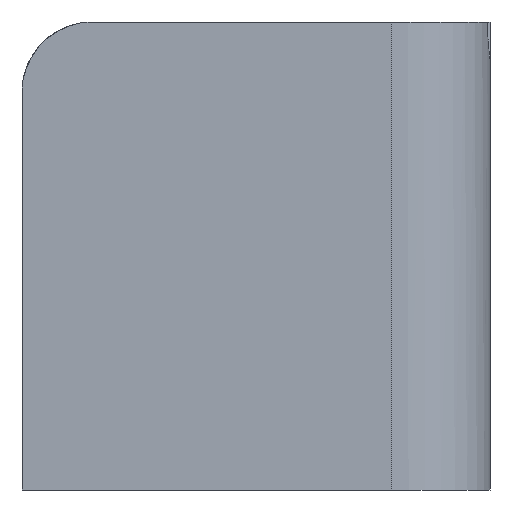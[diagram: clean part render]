
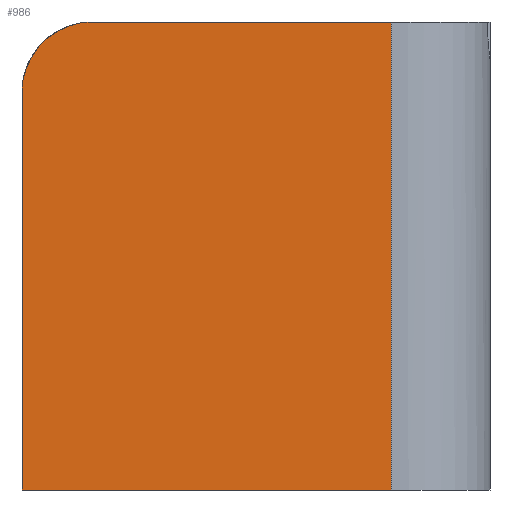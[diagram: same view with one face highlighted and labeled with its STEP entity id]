
A CAD part, front view. The second image highlights one B-rep face of the part: STEP entity #986.
In plain terms, the highlighted planar face has unit normal (0, -1, 0).
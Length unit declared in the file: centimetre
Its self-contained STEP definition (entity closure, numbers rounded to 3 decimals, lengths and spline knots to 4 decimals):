
#13 = ORIENTED_EDGE ( 'NONE', *, *, #677, .T. ) ;
#59 = CARTESIAN_POINT ( 'NONE',  ( 0., 0., 0. ) ) ;
#78 = ORIENTED_EDGE ( 'NONE', *, *, #332, .T. ) ;
#86 = DIRECTION ( 'NONE',  ( 0., 0., 1. ) ) ;
#104 = DIRECTION ( 'NONE',  ( 1., 0., 0. ) ) ;
#178 = DIRECTION ( 'NONE',  ( 0., 0., 1. ) ) ;
#257 = EDGE_LOOP ( 'NONE', ( #78, #13, #1051, #639, #1344 ) ) ;
#270 = CARTESIAN_POINT ( 'NONE',  ( 789.3763, 0., 1000. ) ) ;
#332 = EDGE_CURVE ( 'NONE', #435, #1276, #1120, .T. ) ;
#342 = DIRECTION ( 'NONE',  ( 0., 1., 0. ) ) ;
#435 = VERTEX_POINT ( 'NONE', #59 ) ;
#444 = FACE_OUTER_BOUND ( 'NONE', #257, .T. ) ;
#563 = AXIS2_PLACEMENT_3D ( 'NONE', #833, #1470, #1345 ) ;
#634 = AXIS2_PLACEMENT_3D ( 'NONE', #1572, #342, #86 ) ;
#639 = ORIENTED_EDGE ( 'NONE', *, *, #800, .T. ) ;
#677 = EDGE_CURVE ( 'NONE', #1276, #1320, #1415, .T. ) ;
#719 = VERTEX_POINT ( 'NONE', #1155 ) ;
#726 = EDGE_CURVE ( 'NONE', #1169, #1320, #1508, .T. ) ;
#751 = CARTESIAN_POINT ( 'NONE',  ( 0., 0., 1000. ) ) ;
#760 = VECTOR ( 'NONE', #104, 100. ) ;
#800 = EDGE_CURVE ( 'NONE', #1169, #719, #1523, .T. ) ;
#812 = PLANE ( 'NONE',  #634 ) ;
#833 = CARTESIAN_POINT ( 'NONE',  ( 149.6916, 0., 850.3084 ) ) ;
#969 = CARTESIAN_POINT ( 'NONE',  ( 789.3763, 0., 1000. ) ) ;
#981 = VECTOR ( 'NONE', #178, 100. ) ;
#986 = ADVANCED_FACE ( 'NONE', ( #444 ), #812, .F. ) ;
#1046 = CARTESIAN_POINT ( 'NONE',  ( 149.6916, 0., 1000. ) ) ;
#1051 = ORIENTED_EDGE ( 'NONE', *, *, #726, .F. ) ;
#1107 = EDGE_CURVE ( 'NONE', #719, #435, #1118, .T. ) ;
#1118 = LINE ( 'NONE', #1468, #1347 ) ;
#1120 = LINE ( 'NONE', #1124, #760 ) ;
#1124 = CARTESIAN_POINT ( 'NONE',  ( 0., 0., 0. ) ) ;
#1155 = CARTESIAN_POINT ( 'NONE',  ( 0., 0., 850.3084 ) ) ;
#1169 = VERTEX_POINT ( 'NONE', #1046 ) ;
#1250 = CARTESIAN_POINT ( 'NONE',  ( 789.3763, 0., 0. ) ) ;
#1264 = VECTOR ( 'NONE', #1406, 100. ) ;
#1276 = VERTEX_POINT ( 'NONE', #1250 ) ;
#1320 = VERTEX_POINT ( 'NONE', #969 ) ;
#1344 = ORIENTED_EDGE ( 'NONE', *, *, #1107, .T. ) ;
#1345 = DIRECTION ( 'NONE',  ( 0., 0., 1. ) ) ;
#1347 = VECTOR ( 'NONE', #1461, 100. ) ;
#1406 = DIRECTION ( 'NONE',  ( 1., 0., 0. ) ) ;
#1415 = LINE ( 'NONE', #270, #981 ) ;
#1461 = DIRECTION ( 'NONE',  ( 0., 0., -1. ) ) ;
#1468 = CARTESIAN_POINT ( 'NONE',  ( 0., 0., 1000. ) ) ;
#1470 = DIRECTION ( 'NONE',  ( 0., -1., 0. ) ) ;
#1508 = LINE ( 'NONE', #751, #1264 ) ;
#1523 = CIRCLE ( 'NONE', #563, 149.6916 ) ;
#1572 = CARTESIAN_POINT ( 'NONE',  ( 0., 0., 1000. ) ) ;
